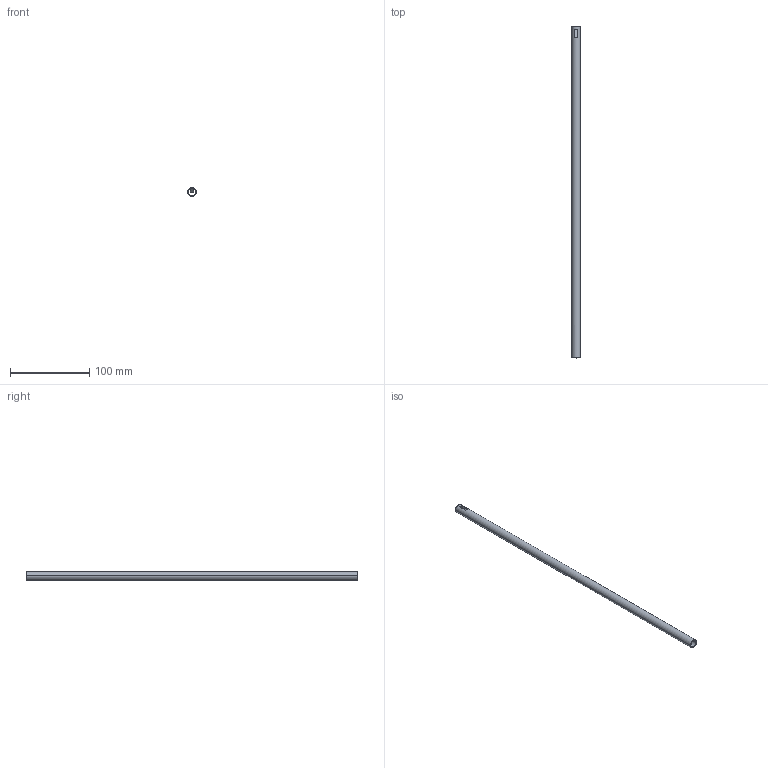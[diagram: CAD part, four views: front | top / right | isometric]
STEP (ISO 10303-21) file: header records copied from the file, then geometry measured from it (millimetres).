
FILE_DESCRIPTION (( 'STEP AP214' ), '1' );
FILE_NAME ('Relingsrohr_2S-Rundrel_Interwood_P760604300_450.step', '2010-09-07T12:59:33', ( 'grass' ), ( '' ), 'SwSTEP 2.0', 'SolidWorks 2010', '' );
FILE_SCHEMA (( 'AUTOMOTIVE_DESIGN' ));
Length unit declared in the file: millimetre
Products named in the file (1): Relingsrohr_2S-Rundrel_Interwood_P760604300_450
Bounding box: 11 x 419 x 11 mm (x, y, z)
Volume: 13161 mm3; surface area: 26429.9 mm2
Topology: 1 solids, 1 shells, 14 faces, 34 edges, 22 vertices
Faces by surface type: plane 10, cylinder 4
Entity records: 476 total; most frequent: CARTESIAN_POINT 77, DIRECTION 72, ORIENTED_EDGE 68, EDGE_CURVE 34, AXIS2_PLACEMENT_3D 25, LINE 22, VECTOR 22, VERTEX_POINT 22
